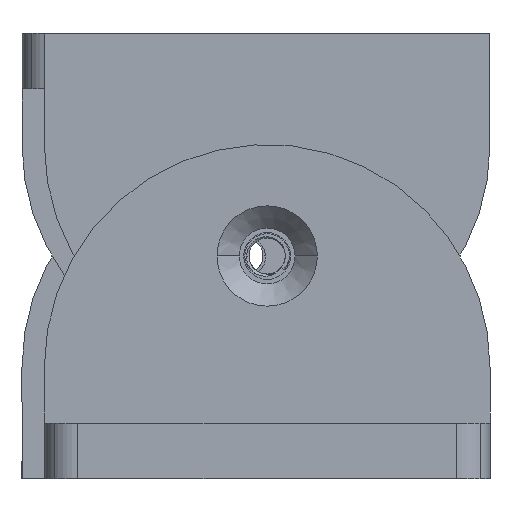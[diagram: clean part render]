
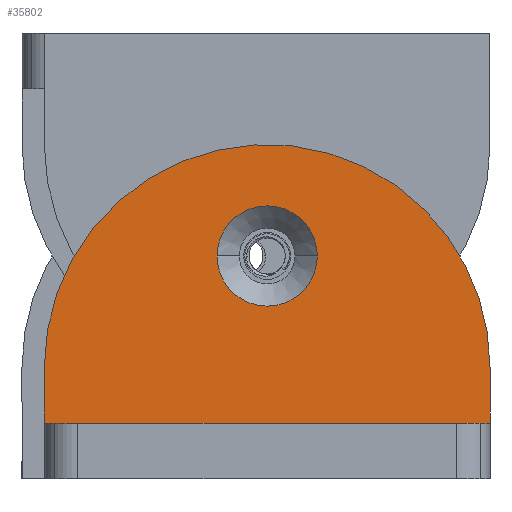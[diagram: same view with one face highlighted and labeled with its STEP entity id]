
A CAD part, front view. The second image highlights one B-rep face of the part: STEP entity #35802.
In plain terms, the highlighted planar face has unit normal (0, -1, 0) as drawn and (0, 0, 1) by its records, which use the part's own axes.
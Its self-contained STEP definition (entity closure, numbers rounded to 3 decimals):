
#35406 = VERTEX_POINT('',#35407);
#35407 = CARTESIAN_POINT('',(34.142,24.142,5.));
#35423 = VERTEX_POINT('',#35424);
#35424 = CARTESIAN_POINT('',(0.,10.,5.));
#35430 = EDGE_CURVE('',#35423,#35406,#35431,.T.);
#35431 = CIRCLE('',#35432,20.);
#35432 = AXIS2_PLACEMENT_3D('',#35433,#35434,#35435);
#35433 = CARTESIAN_POINT('',(20.,10.,5.));
#35434 = DIRECTION('',(0.,0.,-1.));
#35435 = DIRECTION('',(-0.707,0.707,0.));
#35445 = EDGE_CURVE('',#35446,#35448,#35450,.T.);
#35446 = VERTEX_POINT('',#35447);
#35447 = CARTESIAN_POINT('',(15.5,20.,5.));
#35448 = VERTEX_POINT('',#35449);
#35449 = CARTESIAN_POINT('',(24.5,20.,5.));
#35450 = CIRCLE('',#35451,4.5);
#35451 = AXIS2_PLACEMENT_3D('',#35452,#35453,#35454);
#35452 = CARTESIAN_POINT('',(20.,20.,5.));
#35453 = DIRECTION('',(0.,0.,-1.));
#35454 = DIRECTION('',(-1.,0.,0.));
#35495 = EDGE_CURVE('',#35448,#35446,#35496,.T.);
#35496 = CIRCLE('',#35497,4.5);
#35497 = AXIS2_PLACEMENT_3D('',#35498,#35499,#35500);
#35498 = CARTESIAN_POINT('',(20.,20.,5.));
#35499 = DIRECTION('',(0.,0.,-1.));
#35500 = DIRECTION('',(-1.,0.,0.));
#35532 = EDGE_CURVE('',#35406,#35533,#35535,.T.);
#35533 = VERTEX_POINT('',#35534);
#35534 = CARTESIAN_POINT('',(40.,10.,5.));
#35535 = CIRCLE('',#35536,20.);
#35536 = AXIS2_PLACEMENT_3D('',#35537,#35538,#35539);
#35537 = CARTESIAN_POINT('',(20.,10.,5.));
#35538 = DIRECTION('',(0.,0.,-1.));
#35539 = DIRECTION('',(-0.707,0.707,0.));
#35802 = ADVANCED_FACE('',(#35803,#35807),#35833,.T.);
#35803 = FACE_BOUND('',#35804,.T.);
#35804 = EDGE_LOOP('',(#35805,#35806));
#35805 = ORIENTED_EDGE('',*,*,#35495,.T.);
#35806 = ORIENTED_EDGE('',*,*,#35445,.T.);
#35807 = FACE_BOUND('',#35808,.T.);
#35808 = EDGE_LOOP('',(#35809,#35810,#35818,#35826,#35832));
#35809 = ORIENTED_EDGE('',*,*,#35430,.F.);
#35810 = ORIENTED_EDGE('',*,*,#35811,.F.);
#35811 = EDGE_CURVE('',#35812,#35423,#35814,.T.);
#35812 = VERTEX_POINT('',#35813);
#35813 = CARTESIAN_POINT('',(0.,5.,5.));
#35814 = LINE('',#35815,#35816);
#35815 = CARTESIAN_POINT('',(0.,16.25,5.));
#35816 = VECTOR('',#35817,1.);
#35817 = DIRECTION('',(0.,1.,0.));
#35818 = ORIENTED_EDGE('',*,*,#35819,.F.);
#35819 = EDGE_CURVE('',#35820,#35812,#35822,.T.);
#35820 = VERTEX_POINT('',#35821);
#35821 = CARTESIAN_POINT('',(40.,5.,5.));
#35822 = LINE('',#35823,#35824);
#35823 = CARTESIAN_POINT('',(20.,5.,5.));
#35824 = VECTOR('',#35825,1.);
#35825 = DIRECTION('',(-1.,0.,0.));
#35826 = ORIENTED_EDGE('',*,*,#35827,.F.);
#35827 = EDGE_CURVE('',#35533,#35820,#35828,.T.);
#35828 = LINE('',#35829,#35830);
#35829 = CARTESIAN_POINT('',(40.,16.25,5.));
#35830 = VECTOR('',#35831,1.);
#35831 = DIRECTION('',(0.,-1.,0.));
#35832 = ORIENTED_EDGE('',*,*,#35532,.F.);
#35833 = PLANE('',#35834);
#35834 = AXIS2_PLACEMENT_3D('',#35835,#35836,#35837);
#35835 = CARTESIAN_POINT('',(20.,17.5,5.));
#35836 = DIRECTION('',(0.,0.,1.));
#35837 = DIRECTION('',(1.,-0.,0.));
